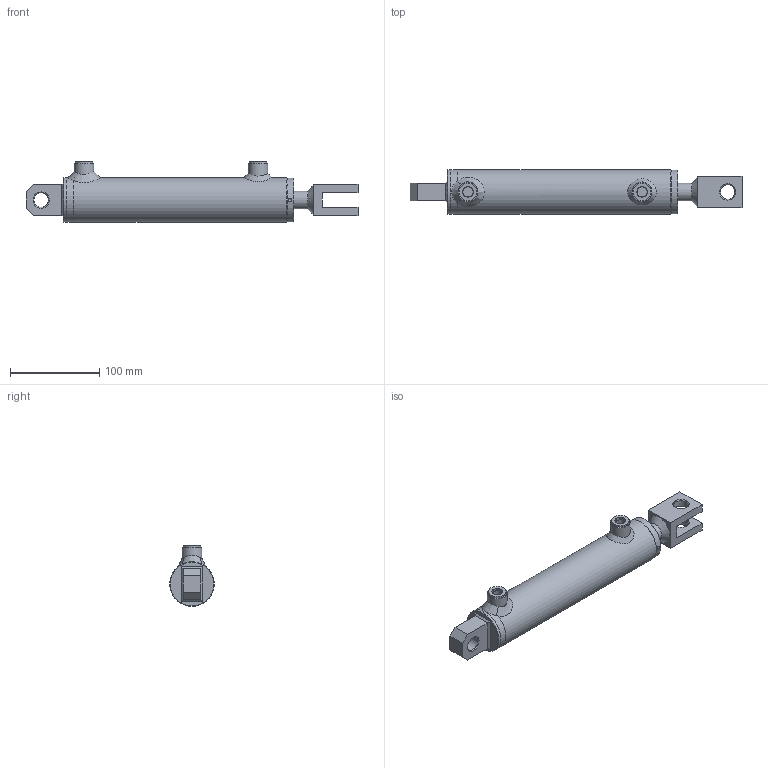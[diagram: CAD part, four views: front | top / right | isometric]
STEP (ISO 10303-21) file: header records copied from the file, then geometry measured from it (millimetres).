
FILE_DESCRIPTION( ( 'Unknown' ), '1' );
FILE_NAME( 'E:/LIBRERIA_3d/CILINDRI/HM5/HM51200150.stp', 'Unknown', ( 'Unknown' ), ( 'Unknown' ), 'PSStep 17.0.49', 'Unknown', ' ' );
FILE_SCHEMA( ( 'AUTOMOTIVE_DESIGN { 1 0 10303 214 1 1 1 1 }' ) );
Length unit declared in the file: millimetre
Products named in the file (26): CT00040015; STL1500150-oa4; Saldatura d'angolo 1-oa2; FTM1500150-oa3; CBSC220400; CG05004020; HM01200150; Saldatura con preparazione 1-oa0; Saldatura d'angolo 1-oa1; CF00040050; CDA0001415; CBS0400000; APG0400000; SBL2010150; Assem1; COF1600000; CFS0000016; Saldatura d'angolo 1-oa5; Saldatura d'angolo 2-oa6
Assembly tree (18 placements, depth 4):
  Saldatura d'angolo 1-oa2
  Saldatura d'angolo 1-oa2
  Saldatura d'angolo 1-oa1
  Saldatura d'angolo 1-oa1
  Assem1
    COF1600000
    CFS0000016
    HM01200150
      Saldatura con preparazione 1-oa0
      Saldatura con preparazione 1-oa0
      CF00040050
      CDA0001415
      CBS0400000
      APG0400000  x2
      SBL2010150
      CT00040015
        CT00040015
      CG05004020
        CG05004020
      STL1500150-oa4
        FTM1500150-oa3
        CBSC220400
Bounding box: 372 x 50 x 68 mm (x, y, z)
Volume: 414028.2 mm3; surface area: 157707.7 mm2
Topology: 22 solids, 22 shells, 253 faces, 531 edges, 329 vertices
Faces by surface type: plane 94, cylinder 63, cone 46, torus 32, bspline 18
Full cylindrical faces by diameter (mm): 4 x4, 4.25 x3, 7 x2, 11.445 x2, 12 x2, 13.1 x2, 14 x2, 15 x3, 16.2 x3, 19.5 x1, 20 x8, 22 x4, 23 x1, 28 x1, 28.6 x1, 30 x1, 35 x1, 35.4 x2, 38.5 x2, 39.9 x1, 40 x1, 40.3 x1, 40.5 x1, 40.6 x1, 41 x1, 42 x3, 42.5 x1, 44 x1, 49 x1, 50 x4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
Entity records: 10622 total; most frequent: CARTESIAN_POINT 4065, DIRECTION 992, ORIENTED_EDGE 660, AXIS2_PLACEMENT_3D 442, EDGE_LOOP 434, FACE_OUTER_BOUND 342, EDGE_CURVE 330, VERTEX_POINT 279
